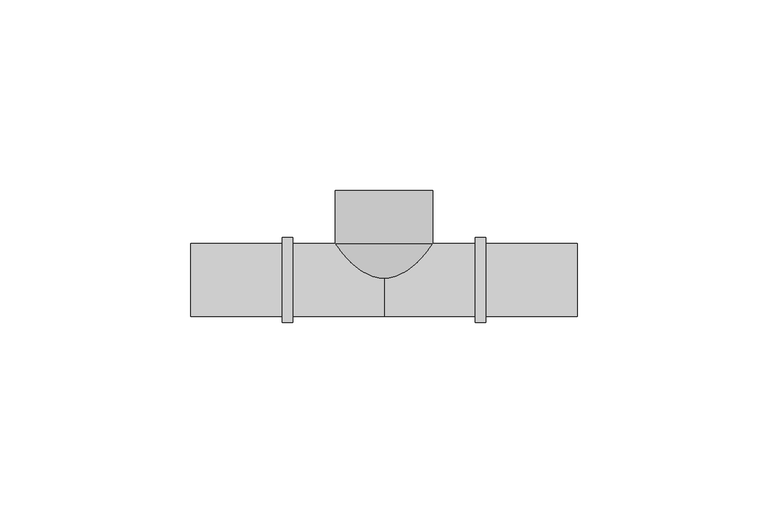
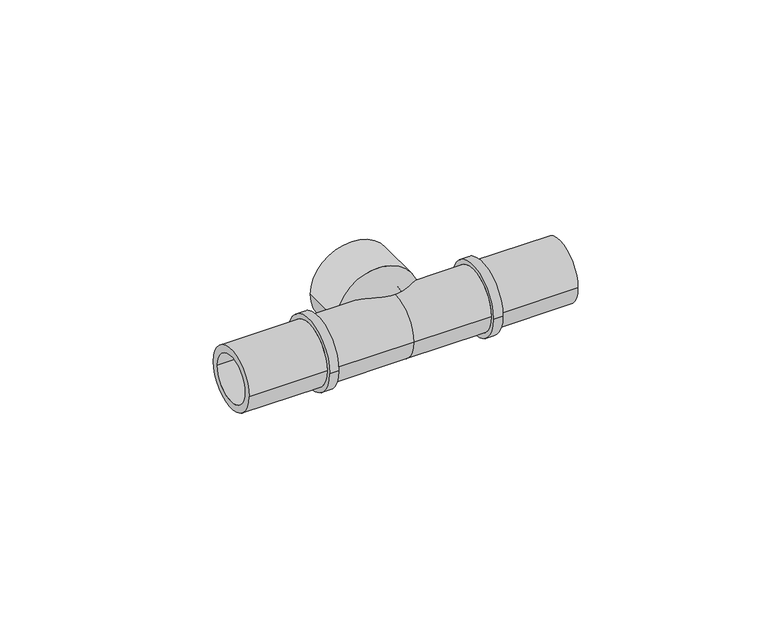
"""IFC4 building model written with IfcOpenShell, lengths in millimetres: pipe fitting geometry, FASTLOC_T-piece internal thread LX : FSL T thread LX PL."""

from ifc_helpers import new_model, si_unit, point, frame, origin, place, context, project, spatial, polyline, circle_curve, ellipse_curve, trimmed, source, transform, mapped, element, save
from ifc_brep_helpers import plane_surface, cylinder_surface, revolved_surface, advanced_brep


def pipe_fitting_978079ad(model_context):
    return source(origin(), model_context, "Body", "AdvancedBrep", [
        advanced_brep(
        [(0.5, -3.3401923, 0.0), (-0.5, -3.3401923, 0.0), (-12.75, 9.4, 0.0), (12.75, 9.4, 0.0), (0.5, 1.9166852, 0.0), (-0.5, 1.9166852, 0.0), (7.5, 9.4, 0.0), (-7.5, 9.4, 0.0), (7.5, 23.5, 0.0), (-7.5, 23.5, 0.0), (-12.75, 23.5, 0.0), (12.75, 23.5, 0.0)],
        [
            (0, 1, circle_curve(frame((0.0, -3.3401923, 0.0), z_axis=(0.0, 1.0, 0.0), x_axis=(-1.0, 0.0, 0.0)), 0.5)),
            (1, 2, circle_curve(frame((0.0, 9.4, 0.0), z_axis=(0.0, 0.0, -1.0), x_axis=(0.0, 1.0, 0.0)), 12.75)),
            (2, 3, circle_curve(frame((0.0, 9.4, 0.0), z_axis=(0.0, -1.0, 0.0), x_axis=(-1.0, 0.0, 0.0)), 12.75)),
            (3, 0, circle_curve(frame((0.0, 9.4, 0.0), z_axis=(0.0, 0.0, -1.0), x_axis=(0.0, 1.0, 0.0)), 12.75)),
            (4, 5, circle_curve(frame((0.0, 1.9166852, 0.0), z_axis=(0.0, 1.0, 0.0), x_axis=(-1.0, 0.0, 0.0)), 0.5)),
            (5, 1),
            (0, 4),
            (6, 7, circle_curve(frame((0.0, 9.4, 0.0), z_axis=(0.0, 1.0, 0.0), x_axis=(-1.0, 0.0, 0.0)), 7.5)),
            (7, 5, circle_curve(frame((0.0, 9.4, 0.0), z_axis=(0.0, 0.0, 1.0), x_axis=(0.0, 1.0, 0.0)), 7.5)),
            (4, 6, circle_curve(frame((0.0, 9.4, 0.0), z_axis=(0.0, 0.0, 1.0), x_axis=(0.0, 1.0, 0.0)), 7.5)),
            (8, 9, circle_curve(frame((0.0, 23.5, 0.0), z_axis=(0.0, 1.0, 0.0), x_axis=(-1.0, 0.0, 0.0)), 7.5)),
            (9, 7),
            (6, 8),
            (2, 10),
            (10, 11, circle_curve(frame((0.0, 23.5, 0.0), z_axis=(0.0, -1.0, 0.0), x_axis=(-1.0, 0.0, 0.0)), 12.75)),
            (11, 3),
            (1, 0, circle_curve(frame((0.0, -3.3401923, 0.0), z_axis=(0.0, 1.0, 0.0), x_axis=(1.0, 0.0, 0.0)), 0.5)),
            (3, 2, circle_curve(frame((0.0, 9.4, 0.0), z_axis=(0.0, -1.0, 0.0), x_axis=(1.0, 0.0, 0.0)), 12.75)),
            (5, 4, circle_curve(frame((0.0, 1.9166852, 0.0), z_axis=(0.0, 1.0, 0.0), x_axis=(1.0, 0.0, 0.0)), 0.5)),
            (7, 6, circle_curve(frame((0.0, 9.4, 0.0), z_axis=(0.0, 1.0, 0.0), x_axis=(1.0, 0.0, 0.0)), 7.5)),
            (9, 8, circle_curve(frame((0.0, 23.5, 0.0), z_axis=(0.0, 1.0, 0.0), x_axis=(1.0, 0.0, 0.0)), 7.5)),
            (10, 11, circle_curve(frame((0.0, 23.5, 0.0), z_axis=(0.0, 1.0, 0.0), x_axis=(1.0, 0.0, 0.0)), 12.75)),
        ],
        [
            revolved_surface(trimmed(ellipse_curve(frame((0.0, 9.4, 0.0), z_axis=(0.0, 0.0, 1.0), x_axis=(0.0, 1.0, 0.0)), 12.75, 12.75), [point((-12.75, 9.4, 0.0))], [point((-0.5, -3.3401923, 0.0))], True, "CARTESIAN"), (0.0, 0.0, 0.0), (0.0, -1.0, 0.0)),
            revolved_surface(polyline([(-0.5, -3.3401923, 0.0), (-0.5, 1.9166852, 0.0)]), (0.0, 0.0, 0.0), (0.0, -1.0, 0.0)),
            revolved_surface(trimmed(ellipse_curve(frame((0.0, 9.4, 0.0), z_axis=(0.0, 0.0, -1.0), x_axis=(0.0, 1.0, 0.0)), 7.5, 7.5), [point((-0.5, 1.9166852, 0.0))], [point((-7.5, 9.4, 0.0))], True, "CARTESIAN"), (0.0, 0.0, 0.0), (0.0, -1.0, 0.0)),
            revolved_surface(polyline([(-7.5, 9.4, 0.0), (-7.5, 23.5, 0.0)]), (0.0, 0.0, 0.0), (0.0, -1.0, 0.0)),
            cylinder_surface(frame((0.0, 0.0, 0.0), z_axis=(0.0, -1.0, 0.0), x_axis=(-1.0, 0.0, 0.0)), 12.75),
            revolved_surface(trimmed(ellipse_curve(frame((0.0, 9.4, 0.0), z_axis=(0.0, 0.0, -1.0), x_axis=(0.0, 1.0, 0.0)), 12.75, 12.75), [point((12.75, 9.4, 0.0))], [point((0.5, -3.3401923, 0.0))], True, "CARTESIAN"), (0.0, 0.0, 0.0), (0.0, -1.0, 0.0)),
            revolved_surface(polyline([(0.5, -3.3401923, 0.0), (0.5, 1.9166852, 0.0)]), (0.0, 0.0, 0.0), (0.0, -1.0, 0.0)),
            revolved_surface(trimmed(ellipse_curve(frame((0.0, 9.4, 0.0), z_axis=(0.0, 0.0, 1.0), x_axis=(0.0, 1.0, 0.0)), 7.5, 7.5), [point((0.5, 1.9166852, 0.0))], [point((7.5, 9.4, 0.0))], True, "CARTESIAN"), (0.0, 0.0, 0.0), (0.0, -1.0, 0.0)),
            revolved_surface(polyline([(7.5, 9.4, 0.0), (7.5, 23.5, 0.0)]), (0.0, 0.0, 0.0), (0.0, -1.0, 0.0)),
            plane_surface(frame((0.0, 23.5, 0.0), z_axis=(0.0, 1.0, 0.0), x_axis=(1.0, 0.0, 0.0))),
            cylinder_surface(frame((0.0, 0.0, 0.0), z_axis=(0.0, -1.0, 0.0), x_axis=(1.0, 0.0, 0.0)), 12.75),
        ],
        [
            (0, [[1, 2, 3, 4]]),
            (1, [[5, 6, -1, 7]]),
            (2, [[8, 9, -5, 10]]),
            (3, [[11, 12, -8, 13]]),
            (4, [[-3, 14, 15, 16]]),
            (5, [[17, -4, 18, -2]]),
            (6, [[19, -7, -17, -6]]),
            (7, [[20, -10, -19, -9]]),
            (8, [[21, -13, -20, -12]]),
            (9, [[22, -15], [-21, -11]]),
            (10, [[-18, -16, -22, -14]]),
        ],
    ),
        advanced_brep(
        [(26.7, 11.1, 0.0), (26.7, -11.1, 0.0), (23.9, -11.1, 0.0), (23.9, 11.1, 0.0), (50.7, 9.6, 0.0), (50.7, -9.6, 0.0), (26.7, -9.6, 0.0), (26.7, 9.6, 0.0), (-50.7, 7.35, 0.0), (-50.7, -7.35, 0.0), (50.7, -7.35, 0.0), (50.7, 7.35, 0.0), (-26.7, 9.6, 0.0), (-26.7, -9.6, 0.0), (-50.7, -9.6, 0.0), (-50.7, 9.6, 0.0), (-23.9, 11.1, 0.0), (-23.9, -11.1, 0.0), (-26.7, -11.1, 0.0), (-26.7, 11.1, 0.0), (0.0, 9.6, 0.0), (0.0, -9.6, 0.0), (-23.9, -9.6, 0.0), (-23.9, 9.6, 0.0), (23.9, 9.6, 0.0), (23.9, -9.6, 0.0)],
        [
            (0, 1, circle_curve(frame((26.7, 0.0, 0.0), z_axis=(-1.0, 0.0, 0.0), x_axis=(0.0, -1.0, 0.0)), 11.1)),
            (1, 2),
            (2, 3, circle_curve(frame((23.9, 0.0, 0.0), z_axis=(1.0, 0.0, 0.0), x_axis=(0.0, -1.0, 0.0)), 11.1)),
            (3, 0),
            (4, 5, circle_curve(frame((50.7, 0.0, 0.0), z_axis=(-1.0, 0.0, 0.0), x_axis=(0.0, -1.0, 0.0)), 9.6)),
            (5, 6),
            (6, 7, circle_curve(frame((26.7, 0.0, 0.0), z_axis=(1.0, 0.0, 0.0), x_axis=(0.0, -1.0, 0.0)), 9.6)),
            (7, 4),
            (8, 9, circle_curve(frame((-50.7, 0.0, 0.0), z_axis=(-1.0, 0.0, 0.0), x_axis=(0.0, -1.0, 0.0)), 7.35)),
            (9, 10),
            (10, 11, circle_curve(frame((50.7, 0.0, 0.0), z_axis=(1.0, 0.0, 0.0), x_axis=(0.0, -1.0, 0.0)), 7.35)),
            (11, 8),
            (12, 13, circle_curve(frame((-26.7, 0.0, 0.0), z_axis=(-1.0, 0.0, 0.0), x_axis=(0.0, -1.0, 0.0)), 9.6)),
            (13, 14),
            (14, 15, circle_curve(frame((-50.7, 0.0, 0.0), z_axis=(1.0, 0.0, 0.0), x_axis=(0.0, -1.0, 0.0)), 9.6)),
            (15, 12),
            (16, 17, circle_curve(frame((-23.9, 0.0, 0.0), z_axis=(-1.0, 0.0, 0.0), x_axis=(0.0, -1.0, 0.0)), 11.1)),
            (17, 18),
            (18, 19, circle_curve(frame((-26.7, 0.0, 0.0), z_axis=(1.0, 0.0, 0.0), x_axis=(0.0, -1.0, 0.0)), 11.1)),
            (19, 16),
            (20, 21, circle_curve(frame((0.0, 0.0, 0.0), z_axis=(-1.0, 0.0, 0.0), x_axis=(0.0, -1.0, 0.0)), 9.6)),
            (21, 22),
            (22, 23, circle_curve(frame((-23.9, 0.0, 0.0), z_axis=(1.0, 0.0, 0.0), x_axis=(0.0, -1.0, 0.0)), 9.6)),
            (23, 20),
            (24, 25, circle_curve(frame((23.9, 0.0, 0.0), z_axis=(-1.0, 0.0, 0.0), x_axis=(0.0, -1.0, 0.0)), 9.6)),
            (25, 21),
            (20, 24),
            (1, 0, circle_curve(frame((26.7, 0.0, 0.0), z_axis=(-1.0, 0.0, 0.0), x_axis=(0.0, 1.0, 0.0)), 11.1)),
            (3, 2, circle_curve(frame((23.9, 0.0, 0.0), z_axis=(1.0, 0.0, 0.0), x_axis=(0.0, 1.0, 0.0)), 11.1)),
            (6, 7, circle_curve(frame((26.7, 0.0, 0.0), z_axis=(-1.0, 0.0, 0.0), x_axis=(0.0, 1.0, 0.0)), 9.6)),
            (5, 4, circle_curve(frame((50.7, 0.0, 0.0), z_axis=(-1.0, 0.0, 0.0), x_axis=(0.0, 1.0, 0.0)), 9.6)),
            (10, 11, circle_curve(frame((50.7, 0.0, 0.0), z_axis=(-1.0, 0.0, 0.0), x_axis=(0.0, 1.0, 0.0)), 7.35)),
            (9, 8, circle_curve(frame((-50.7, 0.0, 0.0), z_axis=(-1.0, 0.0, 0.0), x_axis=(0.0, 1.0, 0.0)), 7.35)),
            (14, 15, circle_curve(frame((-50.7, 0.0, 0.0), z_axis=(-1.0, 0.0, 0.0), x_axis=(0.0, 1.0, 0.0)), 9.6)),
            (13, 12, circle_curve(frame((-26.7, 0.0, 0.0), z_axis=(-1.0, 0.0, 0.0), x_axis=(0.0, 1.0, 0.0)), 9.6)),
            (18, 19, circle_curve(frame((-26.7, 0.0, 0.0), z_axis=(-1.0, 0.0, 0.0), x_axis=(0.0, 1.0, 0.0)), 11.1)),
            (17, 16, circle_curve(frame((-23.9, 0.0, 0.0), z_axis=(-1.0, 0.0, 0.0), x_axis=(0.0, 1.0, 0.0)), 11.1)),
            (22, 23, circle_curve(frame((-23.9, 0.0, 0.0), z_axis=(-1.0, 0.0, 0.0), x_axis=(0.0, 1.0, 0.0)), 9.6)),
            (21, 20, circle_curve(frame((0.0, 0.0, 0.0), z_axis=(-1.0, 0.0, 0.0), x_axis=(0.0, 1.0, 0.0)), 9.6)),
            (25, 24, circle_curve(frame((23.9, 0.0, 0.0), z_axis=(-1.0, 0.0, 0.0), x_axis=(0.0, 1.0, 0.0)), 9.6)),
        ],
        [
            cylinder_surface(frame((0.0, 0.0, 0.0), z_axis=(1.0, 0.0, 0.0), x_axis=(0.0, -1.0, 0.0)), 11.1),
            cylinder_surface(frame((0.0, 0.0, 0.0), z_axis=(1.0, 0.0, 0.0), x_axis=(0.0, -1.0, 0.0)), 9.6),
            revolved_surface(polyline([(50.7, -7.35, 0.0), (-50.7, -7.35, 0.0)]), (0.0, 0.0, 0.0), (1.0, 0.0, 0.0)),
            cylinder_surface(frame((0.0, 0.0, 0.0), z_axis=(1.0, 0.0, 0.0), x_axis=(0.0, 1.0, 0.0)), 11.1),
            plane_surface(frame((26.7, 0.0, 0.0), z_axis=(1.0, 0.0, 0.0), x_axis=(0.0, 1.0, 0.0))),
            cylinder_surface(frame((0.0, 0.0, 0.0), z_axis=(1.0, 0.0, 0.0), x_axis=(0.0, 1.0, 0.0)), 9.6),
            plane_surface(frame((50.7, 0.0, 0.0), z_axis=(1.0, 0.0, 0.0), x_axis=(0.0, 1.0, 0.0))),
            revolved_surface(polyline([(50.7, 7.35, 0.0), (-50.7, 7.35, 0.0)]), (0.0, 0.0, 0.0), (1.0, 0.0, 0.0)),
            plane_surface(frame((-50.7, 0.0, 0.0), z_axis=(-1.0, 0.0, 0.0), x_axis=(0.0, 1.0, 0.0))),
            plane_surface(frame((-26.7, 0.0, 0.0), z_axis=(-1.0, 0.0, 0.0), x_axis=(0.0, 1.0, 0.0))),
            plane_surface(frame((-23.9, 0.0, 0.0), z_axis=(1.0, 0.0, 0.0), x_axis=(0.0, 1.0, 0.0))),
            plane_surface(frame((23.9, 0.0, 0.0), z_axis=(-1.0, 0.0, 0.0), x_axis=(0.0, 1.0, 0.0))),
        ],
        [
            (0, [[1, 2, 3, 4]]),
            (1, [[5, 6, 7, 8]]),
            (2, [[9, 10, 11, 12]]),
            (1, [[13, 14, 15, 16]]),
            (0, [[17, 18, 19, 20]]),
            (1, [[21, 22, 23, 24]]),
            (1, [[25, 26, -21, 27]]),
            (3, [[28, -4, 29, -2]]),
            (4, [[-28, -1], [30, -7]]),
            (5, [[31, -8, -30, -6]]),
            (6, [[-31, -5], [32, -11]]),
            (7, [[33, -12, -32, -10]]),
            (8, [[34, -15], [-33, -9]]),
            (5, [[35, -16, -34, -14]]),
            (9, [[36, -19], [-35, -13]]),
            (3, [[37, -20, -36, -18]]),
            (10, [[-37, -17], [38, -23]]),
            (5, [[39, -24, -38, -22]]),
            (5, [[40, -27, -39, -26]]),
            (11, [[-29, -3], [-40, -25]]),
        ],
    ),
    ])


if __name__ == "__main__":
    model = new_model("IFC4")
    model_context = context("Model", 3, world=origin())
    ifc_project = project(units=[si_unit("LENGTHUNIT", "METRE", prefix="MILLI")], contexts=[model_context])
    site = spatial("IfcSite", under=ifc_project)
    building = spatial("IfcBuilding", under=site)
    placement = place(None, origin())
    pipe_fitting_shape = pipe_fitting_978079ad(model_context)
    element("IfcPipeFitting", 1, ObjectType="FASTLOC_T-piece internal thread LX : FSL T thread LX PL", at=placement, inside=building, context=model_context, shape_type="MappedRepresentation", body=[
        mapped(pipe_fitting_shape, transform((0.0, 0.0, 0.0), x_axis=(1.0, 0.0, 0.0), y_axis=(0.0, 1.0, 0.0), z_axis=(0.0, 0.0, 1.0))),
    ])
    save(model, "model.ifc")
